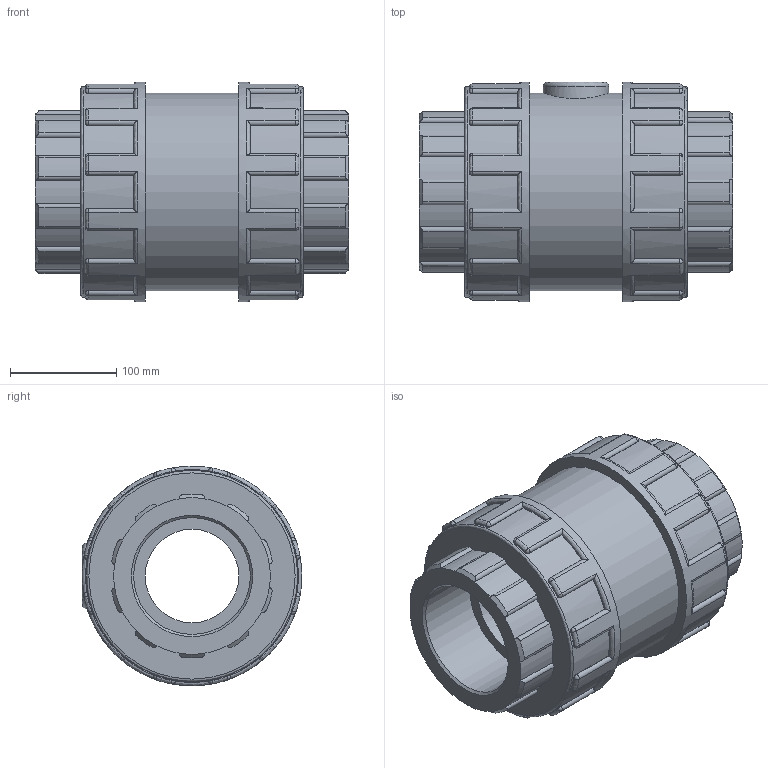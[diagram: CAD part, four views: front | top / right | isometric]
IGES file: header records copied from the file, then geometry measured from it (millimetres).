
Global section: file name: 11080110.ipt; native system: Autodesk Inventor 2015; preprocessor: unknown; author: KIM; date: 20171207.170040; units: millimetre
Bounding box: 295 x 207 x 207 mm (x, y, z)
Volume: 5659464.5 mm3; surface area: 333542 mm2
Topology: 1 solids, 1 shells, 411 faces, 1033 edges, 630 vertices
Faces by surface type: cylinder 182, plane 105, revolution 56, sphere 48, cone 20
Full cylindrical faces by diameter (mm): 62.1 x1, 186.3 x1, 198.72 x2, 207 x2
